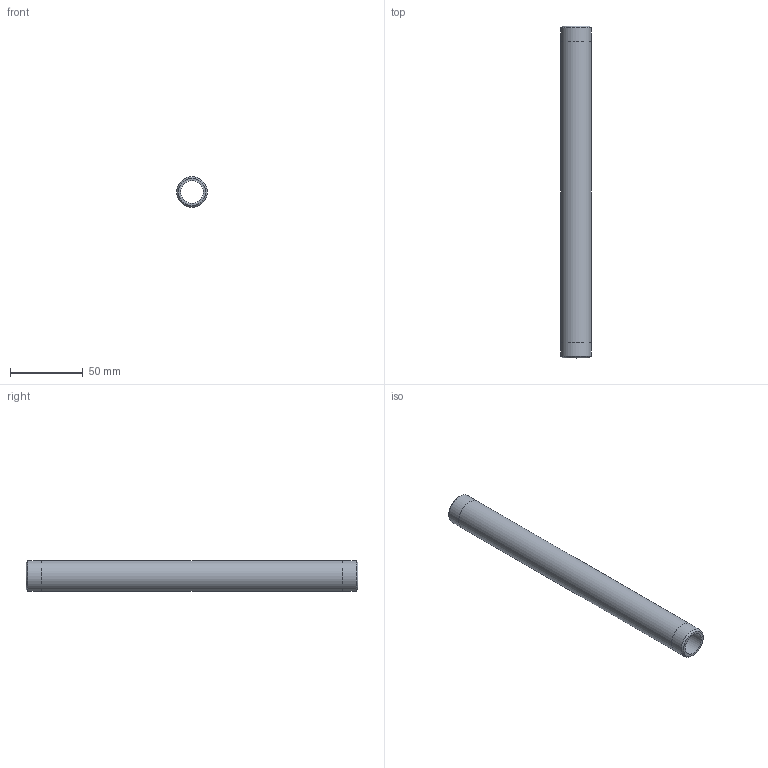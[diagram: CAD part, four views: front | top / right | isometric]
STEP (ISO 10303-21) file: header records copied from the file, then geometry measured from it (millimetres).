
FILE_DESCRIPTION(/* description */ (''),/* implementation_level */ '2;1');
FILE_NAME(/* name */ 'C:/Users/drich/Desktop/SSPN12-9 v1.step',/* time_stamp */ '2020-01-04T12:59:28-06:00',/* author */ (''),/* organization */ (''),/* preprocessor_version */ 'ST-DEVELOPER v18',/* originating_system */ 'Autodesk Translation Framework v8.12.0.6',/* authorisation */ '');
FILE_SCHEMA (('AUTOMOTIVE_DESIGN { 1 0 10303 214 3 1 1 }'));
Length unit declared in the file: inch
Products named in the file (1): SSPN12-9
Bounding box: 21.34 x 228.6 x 21.34 mm (x, y, z)
Volume: 36797.4 mm3; surface area: 26895.7 mm2
Topology: 1 solids, 1 shells, 10 faces, 24 edges, 18 vertices
Faces by surface type: cylinder 4, plane 4, cone 2
Full cylindrical faces by diameter (mm): 15.799 x1, 21.285 x2, 21.336 x1
Entity records: 353 total; most frequent: DIRECTION 64, CARTESIAN_POINT 53, ORIENTED_EDGE 48, AXIS2_PLACEMENT_3D 29, EDGE_CURVE 24, CIRCLE 18, VERTEX_POINT 18, EDGE_LOOP 14
